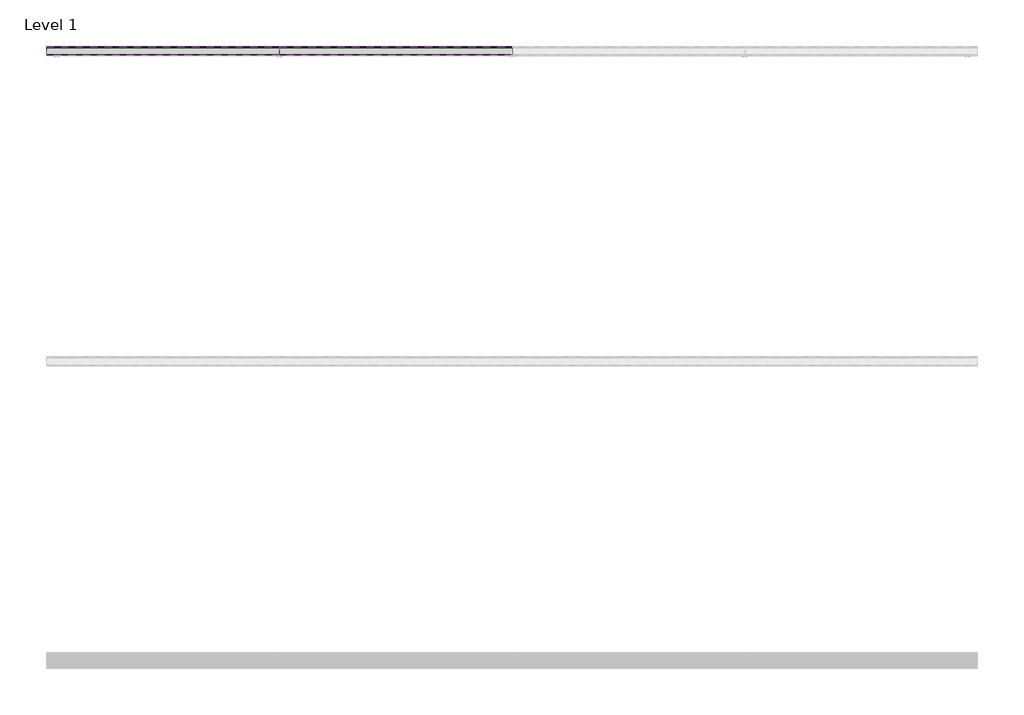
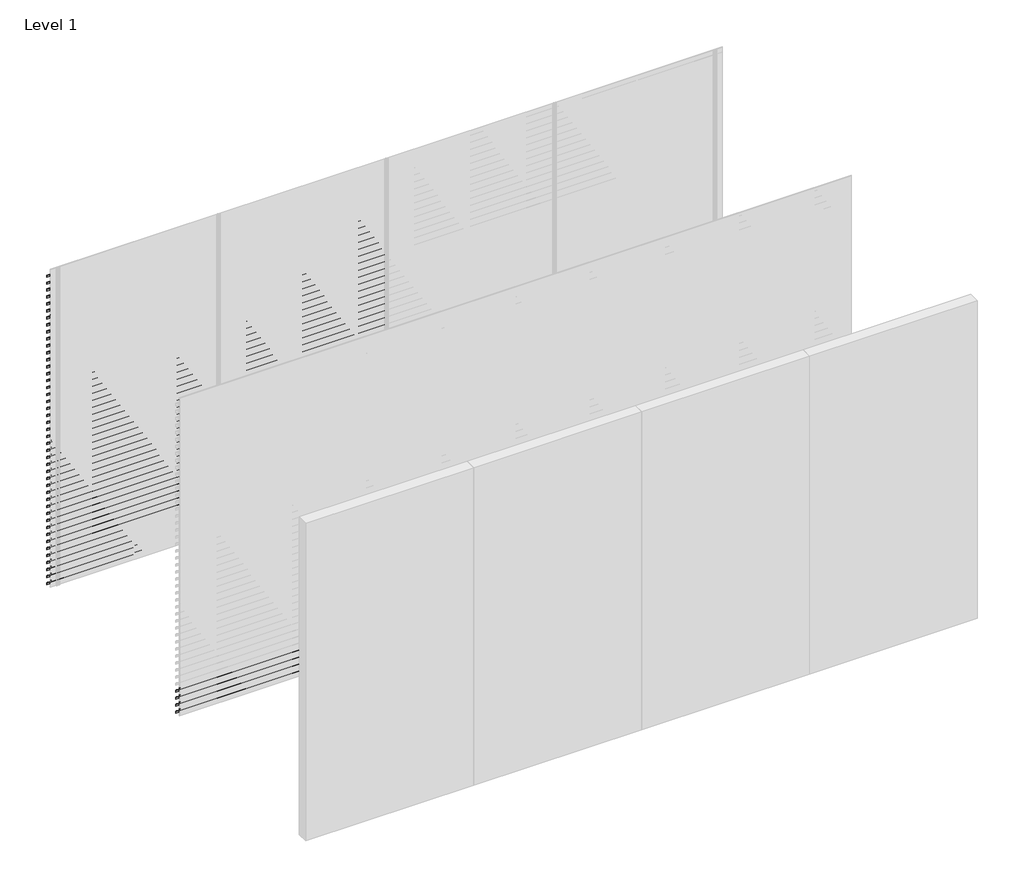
# One storey, part 24 of 25: 92 proxies.
"""IFC4 building model written with IfcOpenShell, lengths in millimetres."""

from ifc_helpers import new_model, si_unit, frame, origin, place, context, project, spatial, polyline, outline, extrude, element, save

model = new_model("IFC4")

# Units and contexts
model_context = context("Model", 3, world=origin())
ifc_project = project(units=[si_unit("LENGTHUNIT", "METRE", prefix="MILLI")], contexts=[model_context])

# Site, building, storey
site = spatial("IfcSite", under=ifc_project)
building = spatial("IfcBuilding", under=site)
storey = spatial("IfcBuildingStorey", under=building, Name="Level 1", Elevation=0.0)

# Proxies
placement = place(None, origin())
element("IfcBuildingElementProxy", 1, Name="Wall Sweeps", at=placement, inside=storey, context=model_context, shape_type="SweptSolid", body=[
    extrude(outline(polyline([(57.0, 2913.5), (57.0, 2893.5), (55.75, 2894.2216933), (55.75, 2912.7872415), (2.0, 2950.3158044), (2.0, 2970.0), (3.25, 2970.0), (3.25, 2951.0285629), (57.0, 2913.5)])), frame((0.0, 0.0, 0.0), z_axis=(1.0, 0.0, 0.0), x_axis=(0.0, 1.0, 0.0)), (0.0, 0.0, 1.0), 1500.0),
])
element("IfcBuildingElementProxy", 2, Name="Wall Sweeps", at=placement, inside=storey, context=model_context, shape_type="SweptSolid", body=[
    extrude(outline(polyline([(57.0, 2847.5), (57.0, 2827.5), (55.75, 2828.2216933), (55.75, 2846.7872415), (2.0, 2884.3158044), (2.0, 2904.0), (3.25, 2904.0), (3.25, 2885.0285629), (57.0, 2847.5)])), frame((0.0, 0.0, 0.0), z_axis=(1.0, 0.0, 0.0), x_axis=(0.0, 1.0, 0.0)), (0.0, 0.0, 1.0), 1500.0),
])
element("IfcBuildingElementProxy", 3, Name="Wall Sweeps", at=placement, inside=storey, context=model_context, shape_type="SweptSolid", body=[
    extrude(outline(polyline([(57.0, 2781.5), (57.0, 2761.5), (55.75, 2762.2216933), (55.75, 2780.7872415), (2.0, 2818.3158044), (2.0, 2838.0), (3.25, 2838.0), (3.25, 2819.0285629), (57.0, 2781.5)])), frame((0.0, 0.0, 0.0), z_axis=(1.0, 0.0, 0.0), x_axis=(0.0, 1.0, 0.0)), (0.0, 0.0, 1.0), 1500.0),
])
element("IfcBuildingElementProxy", 4, Name="Wall Sweeps", at=placement, inside=storey, context=model_context, shape_type="SweptSolid", body=[
    extrude(outline(polyline([(57.0, 2715.5), (57.0, 2695.5), (55.75, 2696.2216933), (55.75, 2714.7872415), (2.0, 2752.3158044), (2.0, 2772.0), (3.25, 2772.0), (3.25, 2753.0285629), (57.0, 2715.5)])), frame((0.0, 0.0, 0.0), z_axis=(1.0, 0.0, 0.0), x_axis=(0.0, 1.0, 0.0)), (0.0, 0.0, 1.0), 1500.0),
])
element("IfcBuildingElementProxy", 5, Name="Wall Sweeps", at=placement, inside=storey, context=model_context, shape_type="SweptSolid", body=[
    extrude(outline(polyline([(57.0, 2649.5), (57.0, 2629.5), (55.75, 2630.2216933), (55.75, 2648.7872415), (2.0, 2686.3158044), (2.0, 2706.0), (3.25, 2706.0), (3.25, 2687.0285629), (57.0, 2649.5)])), frame((0.0, 0.0, 0.0), z_axis=(1.0, 0.0, 0.0), x_axis=(0.0, 1.0, 0.0)), (0.0, 0.0, 1.0), 1500.0),
])
element("IfcBuildingElementProxy", 6, Name="Wall Sweeps", at=placement, inside=storey, context=model_context, shape_type="SweptSolid", body=[
    extrude(outline(polyline([(57.0, 2583.5), (57.0, 2563.5), (55.75, 2564.2216933), (55.75, 2582.7872415), (2.0, 2620.3158044), (2.0, 2640.0), (3.25, 2640.0), (3.25, 2621.0285629), (57.0, 2583.5)])), frame((0.0, 0.0, 0.0), z_axis=(1.0, 0.0, 0.0), x_axis=(0.0, 1.0, 0.0)), (0.0, 0.0, 1.0), 1500.0),
])
element("IfcBuildingElementProxy", 7, Name="Wall Sweeps", at=placement, inside=storey, context=model_context, shape_type="SweptSolid", body=[
    extrude(outline(polyline([(57.0, 2517.5), (57.0, 2497.5), (55.75, 2498.2216933), (55.75, 2516.7872415), (2.0, 2554.3158044), (2.0, 2574.0), (3.25, 2574.0), (3.25, 2555.0285629), (57.0, 2517.5)])), frame((0.0, 0.0, 0.0), z_axis=(1.0, 0.0, 0.0), x_axis=(0.0, 1.0, 0.0)), (0.0, 0.0, 1.0), 1500.0),
])
element("IfcBuildingElementProxy", 8, Name="Wall Sweeps", at=placement, inside=storey, context=model_context, shape_type="SweptSolid", body=[
    extrude(outline(polyline([(57.0, 2451.5), (57.0, 2431.5), (55.75, 2432.2216933), (55.75, 2450.7872415), (2.0, 2488.3158044), (2.0, 2508.0), (3.25, 2508.0), (3.25, 2489.0285629), (57.0, 2451.5)])), frame((0.0, 0.0, 0.0), z_axis=(1.0, 0.0, 0.0), x_axis=(0.0, 1.0, 0.0)), (0.0, 0.0, 1.0), 1500.0),
])
element("IfcBuildingElementProxy", 9, Name="Wall Sweeps", at=placement, inside=storey, context=model_context, shape_type="SweptSolid", body=[
    extrude(outline(polyline([(57.0, 2385.5), (57.0, 2365.5), (55.75, 2366.2216933), (55.75, 2384.7872415), (2.0, 2422.3158044), (2.0, 2442.0), (3.25, 2442.0), (3.25, 2423.0285629), (57.0, 2385.5)])), frame((0.0, 0.0, 0.0), z_axis=(1.0, 0.0, 0.0), x_axis=(0.0, 1.0, 0.0)), (0.0, 0.0, 1.0), 1500.0),
])
element("IfcBuildingElementProxy", 10, Name="Wall Sweeps", at=placement, inside=storey, context=model_context, shape_type="SweptSolid", body=[
    extrude(outline(polyline([(57.0, 2319.5), (57.0, 2299.5), (55.75, 2300.2216933), (55.75, 2318.7872415), (2.0, 2356.3158044), (2.0, 2376.0), (3.25, 2376.0), (3.25, 2357.0285629), (57.0, 2319.5)])), frame((0.0, 0.0, 0.0), z_axis=(1.0, 0.0, 0.0), x_axis=(0.0, 1.0, 0.0)), (0.0, 0.0, 1.0), 1500.0),
])
element("IfcBuildingElementProxy", 11, Name="Wall Sweeps", at=placement, inside=storey, context=model_context, shape_type="SweptSolid", body=[
    extrude(outline(polyline([(57.0, 2253.5), (57.0, 2233.5), (55.75, 2234.2216933), (55.75, 2252.7872415), (2.0, 2290.3158044), (2.0, 2310.0), (3.25, 2310.0), (3.25, 2291.0285629), (57.0, 2253.5)])), frame((0.0, 0.0, 0.0), z_axis=(1.0, 0.0, 0.0), x_axis=(0.0, 1.0, 0.0)), (0.0, 0.0, 1.0), 1500.0),
])
element("IfcBuildingElementProxy", 12, Name="Wall Sweeps", at=placement, inside=storey, context=model_context, shape_type="SweptSolid", body=[
    extrude(outline(polyline([(57.0, 2187.5), (57.0, 2167.5), (55.75, 2168.2216933), (55.75, 2186.7872415), (2.0, 2224.3158044), (2.0, 2244.0), (3.25, 2244.0), (3.25, 2225.0285629), (57.0, 2187.5)])), frame((0.0, 0.0, 0.0), z_axis=(1.0, 0.0, 0.0), x_axis=(0.0, 1.0, 0.0)), (0.0, 0.0, 1.0), 1500.0),
])
element("IfcBuildingElementProxy", 13, Name="Wall Sweeps", at=placement, inside=storey, context=model_context, shape_type="SweptSolid", body=[
    extrude(outline(polyline([(57.0, 2121.5), (57.0, 2101.5), (55.75, 2102.2216933), (55.75, 2120.7872415), (2.0, 2158.3158044), (2.0, 2178.0), (3.25, 2178.0), (3.25, 2159.0285629), (57.0, 2121.5)])), frame((0.0, 0.0, 0.0), z_axis=(1.0, 0.0, 0.0), x_axis=(0.0, 1.0, 0.0)), (0.0, 0.0, 1.0), 1500.0),
])
element("IfcBuildingElementProxy", 14, Name="Wall Sweeps", at=placement, inside=storey, context=model_context, shape_type="SweptSolid", body=[
    extrude(outline(polyline([(57.0, 2055.5), (57.0, 2035.5), (55.75, 2036.2216933), (55.75, 2054.7872415), (2.0, 2092.3158044), (2.0, 2112.0), (3.25, 2112.0), (3.25, 2093.0285629), (57.0, 2055.5)])), frame((0.0, 0.0, 0.0), z_axis=(1.0, 0.0, 0.0), x_axis=(0.0, 1.0, 0.0)), (0.0, 0.0, 1.0), 1500.0),
])
element("IfcBuildingElementProxy", 15, Name="Wall Sweeps", at=placement, inside=storey, context=model_context, shape_type="SweptSolid", body=[
    extrude(outline(polyline([(57.0, 1989.5), (57.0, 1969.5), (55.75, 1970.2216933), (55.75, 1988.7872415), (2.0, 2026.3158044), (2.0, 2046.0), (3.25, 2046.0), (3.25, 2027.0285629), (57.0, 1989.5)])), frame((0.0, 0.0, 0.0), z_axis=(1.0, 0.0, 0.0), x_axis=(0.0, 1.0, 0.0)), (0.0, 0.0, 1.0), 1500.0),
])
element("IfcBuildingElementProxy", 16, Name="Wall Sweeps", at=placement, inside=storey, context=model_context, shape_type="SweptSolid", body=[
    extrude(outline(polyline([(57.0, 1923.5), (57.0, 1903.5), (55.75, 1904.2216933), (55.75, 1922.7872415), (2.0, 1960.3158044), (2.0, 1980.0), (3.25, 1980.0), (3.25, 1961.0285629), (57.0, 1923.5)])), frame((0.0, 0.0, 0.0), z_axis=(1.0, 0.0, 0.0), x_axis=(0.0, 1.0, 0.0)), (0.0, 0.0, 1.0), 1500.0),
])
element("IfcBuildingElementProxy", 17, Name="Wall Sweeps", at=placement, inside=storey, context=model_context, shape_type="SweptSolid", body=[
    extrude(outline(polyline([(57.0, 1857.5), (57.0, 1837.5), (55.75, 1838.2216933), (55.75, 1856.7872415), (2.0, 1894.3158044), (2.0, 1914.0), (3.25, 1914.0), (3.25, 1895.0285629), (57.0, 1857.5)])), frame((0.0, 0.0, 0.0), z_axis=(1.0, 0.0, 0.0), x_axis=(0.0, 1.0, 0.0)), (0.0, 0.0, 1.0), 1500.0),
])
element("IfcBuildingElementProxy", 18, Name="Wall Sweeps", at=placement, inside=storey, context=model_context, shape_type="SweptSolid", body=[
    extrude(outline(polyline([(57.0, 1791.5), (57.0, 1771.5), (55.75, 1772.2216933), (55.75, 1790.7872415), (2.0, 1828.3158044), (2.0, 1848.0), (3.25, 1848.0), (3.25, 1829.0285629), (57.0, 1791.5)])), frame((0.0, 0.0, 0.0), z_axis=(1.0, 0.0, 0.0), x_axis=(0.0, 1.0, 0.0)), (0.0, 0.0, 1.0), 1500.0),
])
element("IfcBuildingElementProxy", 19, Name="Wall Sweeps", at=placement, inside=storey, context=model_context, shape_type="SweptSolid", body=[
    extrude(outline(polyline([(57.0, 1725.5), (57.0, 1705.5), (55.75, 1706.2216933), (55.75, 1724.7872415), (2.0, 1762.3158044), (2.0, 1782.0), (3.25, 1782.0), (3.25, 1763.0285629), (57.0, 1725.5)])), frame((0.0, 0.0, 0.0), z_axis=(1.0, 0.0, 0.0), x_axis=(0.0, 1.0, 0.0)), (0.0, 0.0, 1.0), 1500.0),
])
element("IfcBuildingElementProxy", 20, Name="Wall Sweeps", at=placement, inside=storey, context=model_context, shape_type="SweptSolid", body=[
    extrude(outline(polyline([(57.0, 1659.5), (57.0, 1639.5), (55.75, 1640.2216933), (55.75, 1658.7872415), (2.0, 1696.3158044), (2.0, 1716.0), (3.25, 1716.0), (3.25, 1697.0285629), (57.0, 1659.5)])), frame((0.0, 0.0, 0.0), z_axis=(1.0, 0.0, 0.0), x_axis=(0.0, 1.0, 0.0)), (0.0, 0.0, 1.0), 1500.0),
])
element("IfcBuildingElementProxy", 21, Name="Wall Sweeps", at=placement, inside=storey, context=model_context, shape_type="SweptSolid", body=[
    extrude(outline(polyline([(57.0, 1593.5), (57.0, 1573.5), (55.75, 1574.2216933), (55.75, 1592.7872415), (2.0, 1630.3158044), (2.0, 1650.0), (3.25, 1650.0), (3.25, 1631.0285629), (57.0, 1593.5)])), frame((0.0, 0.0, 0.0), z_axis=(1.0, 0.0, 0.0), x_axis=(0.0, 1.0, 0.0)), (0.0, 0.0, 1.0), 1500.0),
])
element("IfcBuildingElementProxy", 22, Name="Wall Sweeps", at=placement, inside=storey, context=model_context, shape_type="SweptSolid", body=[
    extrude(outline(polyline([(57.0, 1527.5), (57.0, 1507.5), (55.75, 1508.2216933), (55.75, 1526.7872415), (2.0, 1564.3158044), (2.0, 1584.0), (3.25, 1584.0), (3.25, 1565.0285629), (57.0, 1527.5)])), frame((0.0, 0.0, 0.0), z_axis=(1.0, 0.0, 0.0), x_axis=(0.0, 1.0, 0.0)), (0.0, 0.0, 1.0), 1500.0),
])
element("IfcBuildingElementProxy", 23, Name="Wall Sweeps", at=placement, inside=storey, context=model_context, shape_type="SweptSolid", body=[
    extrude(outline(polyline([(57.0, 1461.5), (57.0, 1441.5), (55.75, 1442.2216933), (55.75, 1460.7872415), (2.0, 1498.3158044), (2.0, 1518.0), (3.25, 1518.0), (3.25, 1499.0285629), (57.0, 1461.5)])), frame((0.0, 0.0, 0.0), z_axis=(1.0, 0.0, 0.0), x_axis=(0.0, 1.0, 0.0)), (0.0, 0.0, 1.0), 1500.0),
])
element("IfcBuildingElementProxy", 24, Name="Wall Sweeps", at=placement, inside=storey, context=model_context, shape_type="SweptSolid", body=[
    extrude(outline(polyline([(57.0, 1395.5), (57.0, 1375.5), (55.75, 1376.2216933), (55.75, 1394.7872415), (2.0, 1432.3158044), (2.0, 1452.0), (3.25, 1452.0), (3.25, 1433.0285629), (57.0, 1395.5)])), frame((0.0, 0.0, 0.0), z_axis=(1.0, 0.0, 0.0), x_axis=(0.0, 1.0, 0.0)), (0.0, 0.0, 1.0), 1500.0),
])
element("IfcBuildingElementProxy", 25, Name="Wall Sweeps", at=placement, inside=storey, context=model_context, shape_type="SweptSolid", body=[
    extrude(outline(polyline([(57.0, 1329.5), (57.0, 1309.5), (55.75, 1310.2216933), (55.75, 1328.7872415), (2.0, 1366.3158044), (2.0, 1386.0), (3.25, 1386.0), (3.25, 1367.0285629), (57.0, 1329.5)])), frame((0.0, 0.0, 0.0), z_axis=(1.0, 0.0, 0.0), x_axis=(0.0, 1.0, 0.0)), (0.0, 0.0, 1.0), 1500.0),
])
element("IfcBuildingElementProxy", 26, Name="Wall Sweeps", at=placement, inside=storey, context=model_context, shape_type="SweptSolid", body=[
    extrude(outline(polyline([(57.0, 1263.5), (57.0, 1243.5), (55.75, 1244.2216933), (55.75, 1262.7872415), (2.0, 1300.3158044), (2.0, 1320.0), (3.25, 1320.0), (3.25, 1301.0285629), (57.0, 1263.5)])), frame((0.0, 0.0, 0.0), z_axis=(1.0, 0.0, 0.0), x_axis=(0.0, 1.0, 0.0)), (0.0, 0.0, 1.0), 1500.0),
])
element("IfcBuildingElementProxy", 27, Name="Wall Sweeps", at=placement, inside=storey, context=model_context, shape_type="SweptSolid", body=[
    extrude(outline(polyline([(57.0, 1197.5), (57.0, 1177.5), (55.75, 1178.2216933), (55.75, 1196.7872415), (2.0, 1234.3158044), (2.0, 1254.0), (3.25, 1254.0), (3.25, 1235.0285629), (57.0, 1197.5)])), frame((0.0, 0.0, 0.0), z_axis=(1.0, 0.0, 0.0), x_axis=(0.0, 1.0, 0.0)), (0.0, 0.0, 1.0), 1500.0),
])
element("IfcBuildingElementProxy", 28, Name="Wall Sweeps", at=placement, inside=storey, context=model_context, shape_type="SweptSolid", body=[
    extrude(outline(polyline([(57.0, 1131.5), (57.0, 1111.5), (55.75, 1112.2216933), (55.75, 1130.7872415), (2.0, 1168.3158044), (2.0, 1188.0), (3.25, 1188.0), (3.25, 1169.0285629), (57.0, 1131.5)])), frame((0.0, 0.0, 0.0), z_axis=(1.0, 0.0, 0.0), x_axis=(0.0, 1.0, 0.0)), (0.0, 0.0, 1.0), 1500.0),
])
element("IfcBuildingElementProxy", 29, Name="Wall Sweeps", at=placement, inside=storey, context=model_context, shape_type="SweptSolid", body=[
    extrude(outline(polyline([(57.0, 1065.5), (57.0, 1045.5), (55.75, 1046.2216933), (55.75, 1064.7872415), (2.0, 1102.3158044), (2.0, 1122.0), (3.25, 1122.0), (3.25, 1103.0285629), (57.0, 1065.5)])), frame((0.0, 0.0, 0.0), z_axis=(1.0, 0.0, 0.0), x_axis=(0.0, 1.0, 0.0)), (0.0, 0.0, 1.0), 1500.0),
])
element("IfcBuildingElementProxy", 30, Name="Wall Sweeps", at=placement, inside=storey, context=model_context, shape_type="SweptSolid", body=[
    extrude(outline(polyline([(57.0, 999.5), (57.0, 979.5), (55.75, 980.2216933), (55.75, 998.7872415), (2.0, 1036.3158044), (2.0, 1056.0), (3.25, 1056.0), (3.25, 1037.0285629), (57.0, 999.5)])), frame((0.0, 0.0, 0.0), z_axis=(1.0, 0.0, 0.0), x_axis=(0.0, 1.0, 0.0)), (0.0, 0.0, 1.0), 1500.0),
])
element("IfcBuildingElementProxy", 31, Name="Wall Sweeps", at=placement, inside=storey, context=model_context, shape_type="SweptSolid", body=[
    extrude(outline(polyline([(57.0, 933.5), (57.0, 913.5), (55.75, 914.2216933), (55.75, 932.7872415), (2.0, 970.3158044), (2.0, 990.0), (3.25, 990.0), (3.25, 971.0285629), (57.0, 933.5)])), frame((0.0, 0.0, 0.0), z_axis=(1.0, 0.0, 0.0), x_axis=(0.0, 1.0, 0.0)), (0.0, 0.0, 1.0), 1500.0),
])
element("IfcBuildingElementProxy", 32, Name="Wall Sweeps", at=placement, inside=storey, context=model_context, shape_type="SweptSolid", body=[
    extrude(outline(polyline([(57.0, 867.5), (57.0, 847.5), (55.75, 848.2216933), (55.75, 866.7872415), (2.0, 904.3158044), (2.0, 924.0), (3.25, 924.0), (3.25, 905.0285629), (57.0, 867.5)])), frame((0.0, 0.0, 0.0), z_axis=(1.0, 0.0, 0.0), x_axis=(0.0, 1.0, 0.0)), (0.0, 0.0, 1.0), 1500.0),
])
element("IfcBuildingElementProxy", 33, Name="Wall Sweeps", at=placement, inside=storey, context=model_context, shape_type="SweptSolid", body=[
    extrude(outline(polyline([(57.0, 801.5), (57.0, 781.5), (55.75, 782.2216933), (55.75, 800.7872415), (2.0, 838.3158044), (2.0, 858.0), (3.25, 858.0), (3.25, 839.0285629), (57.0, 801.5)])), frame((0.0, 0.0, 0.0), z_axis=(1.0, 0.0, 0.0), x_axis=(0.0, 1.0, 0.0)), (0.0, 0.0, 1.0), 1500.0),
])
element("IfcBuildingElementProxy", 34, Name="Wall Sweeps", at=placement, inside=storey, context=model_context, shape_type="SweptSolid", body=[
    extrude(outline(polyline([(57.0, 735.5), (57.0, 715.5), (55.75, 716.2216933), (55.75, 734.7872415), (2.0, 772.3158044), (2.0, 792.0), (3.25, 792.0), (3.25, 773.0285629), (57.0, 735.5)])), frame((0.0, 0.0, 0.0), z_axis=(1.0, 0.0, 0.0), x_axis=(0.0, 1.0, 0.0)), (0.0, 0.0, 1.0), 1500.0),
])
element("IfcBuildingElementProxy", 35, Name="Wall Sweeps", at=placement, inside=storey, context=model_context, shape_type="SweptSolid", body=[
    extrude(outline(polyline([(57.0, 669.5), (57.0, 649.5), (55.75, 650.2216933), (55.75, 668.7872415), (2.0, 706.3158044), (2.0, 726.0), (3.25, 726.0), (3.25, 707.0285629), (57.0, 669.5)])), frame((0.0, 0.0, 0.0), z_axis=(1.0, 0.0, 0.0), x_axis=(0.0, 1.0, 0.0)), (0.0, 0.0, 1.0), 1500.0),
])
element("IfcBuildingElementProxy", 36, Name="Wall Sweeps", at=placement, inside=storey, context=model_context, shape_type="SweptSolid", body=[
    extrude(outline(polyline([(57.0, 603.5), (57.0, 583.5), (55.75, 584.2216933), (55.75, 602.7872415), (2.0, 640.3158044), (2.0, 660.0), (3.25, 660.0), (3.25, 641.0285629), (57.0, 603.5)])), frame((0.0, 0.0, 0.0), z_axis=(1.0, 0.0, 0.0), x_axis=(0.0, 1.0, 0.0)), (0.0, 0.0, 1.0), 1500.0),
])
element("IfcBuildingElementProxy", 37, Name="Wall Sweeps", at=placement, inside=storey, context=model_context, shape_type="SweptSolid", body=[
    extrude(outline(polyline([(57.0, 537.5), (57.0, 517.5), (55.75, 518.2216933), (55.75, 536.7872415), (2.0, 574.3158044), (2.0, 594.0), (3.25, 594.0), (3.25, 575.0285629), (57.0, 537.5)])), frame((0.0, 0.0, 0.0), z_axis=(1.0, 0.0, 0.0), x_axis=(0.0, 1.0, 0.0)), (0.0, 0.0, 1.0), 1500.0),
])
element("IfcBuildingElementProxy", 38, Name="Wall Sweeps", at=placement, inside=storey, context=model_context, shape_type="SweptSolid", body=[
    extrude(outline(polyline([(57.0, 471.5), (57.0, 451.5), (55.75, 452.2216933), (55.75, 470.7872415), (2.0, 508.3158044), (2.0, 528.0), (3.25, 528.0), (3.25, 509.0285629), (57.0, 471.5)])), frame((0.0, 0.0, 0.0), z_axis=(1.0, 0.0, 0.0), x_axis=(0.0, 1.0, 0.0)), (0.0, 0.0, 1.0), 1500.0),
])
element("IfcBuildingElementProxy", 39, Name="Wall Sweeps", at=placement, inside=storey, context=model_context, shape_type="SweptSolid", body=[
    extrude(outline(polyline([(57.0, 405.5), (57.0, 385.5), (55.75, 386.2216933), (55.75, 404.7872415), (2.0, 442.3158044), (2.0, 462.0), (3.25, 462.0), (3.25, 443.0285629), (57.0, 405.5)])), frame((0.0, 0.0, 0.0), z_axis=(1.0, 0.0, 0.0), x_axis=(0.0, 1.0, 0.0)), (0.0, 0.0, 1.0), 1500.0),
])
element("IfcBuildingElementProxy", 40, Name="Wall Sweeps", at=placement, inside=storey, context=model_context, shape_type="SweptSolid", body=[
    extrude(outline(polyline([(57.0, 339.5), (57.0, 319.5), (55.75, 320.2216933), (55.75, 338.7872415), (2.0, 376.3158044), (2.0, 396.0), (3.25, 396.0), (3.25, 377.0285629), (57.0, 339.5)])), frame((0.0, 0.0, 0.0), z_axis=(1.0, 0.0, 0.0), x_axis=(0.0, 1.0, 0.0)), (0.0, 0.0, 1.0), 1500.0),
])
element("IfcBuildingElementProxy", 41, Name="Wall Sweeps", at=placement, inside=storey, context=model_context, shape_type="SweptSolid", body=[
    extrude(outline(polyline([(57.0, 273.5), (57.0, 253.5), (55.75, 254.2216933), (55.75, 272.7872415), (2.0, 310.3158044), (2.0, 330.0), (3.25, 330.0), (3.25, 311.0285629), (57.0, 273.5)])), frame((0.0, 0.0, 0.0), z_axis=(1.0, 0.0, 0.0), x_axis=(0.0, 1.0, 0.0)), (0.0, 0.0, 1.0), 1500.0),
])
element("IfcBuildingElementProxy", 42, Name="Wall Sweeps", at=placement, inside=storey, context=model_context, shape_type="SweptSolid", body=[
    extrude(outline(polyline([(57.0, 207.5), (57.0, 187.5), (55.75, 188.2216933), (55.75, 206.7872415), (2.0, 244.3158044), (2.0, 264.0), (3.25, 264.0), (3.25, 245.0285629), (57.0, 207.5)])), frame((0.0, 0.0, 0.0), z_axis=(1.0, 0.0, 0.0), x_axis=(0.0, 1.0, 0.0)), (0.0, 0.0, 1.0), 1500.0),
])
element("IfcBuildingElementProxy", 43, Name="Wall Sweeps", at=placement, inside=storey, context=model_context, shape_type="SweptSolid", body=[
    extrude(outline(polyline([(57.0, 141.5), (57.0, 121.5), (55.75, 122.2216933), (55.75, 140.7872415), (2.0, 178.3158044), (2.0, 198.0), (3.25, 198.0), (3.25, 179.0285629), (57.0, 141.5)])), frame((0.0, 0.0, 0.0), z_axis=(1.0, 0.0, 0.0), x_axis=(0.0, 1.0, 0.0)), (0.0, 0.0, 1.0), 1500.0),
])
element("IfcBuildingElementProxy", 44, Name="Wall Sweeps", at=placement, inside=storey, context=model_context, shape_type="SweptSolid", body=[
    extrude(outline(polyline([(57.0, 75.5), (57.0, 55.5), (55.75, 56.2216933), (55.75, 74.7872415), (2.0, 112.3158044), (2.0, 132.0), (3.25, 132.0), (3.25, 113.0285629), (57.0, 75.5)])), frame((0.0, 0.0, 0.0), z_axis=(1.0, 0.0, 0.0), x_axis=(0.0, 1.0, 0.0)), (0.0, 0.0, 1.0), 1500.0),
])
element("IfcBuildingElementProxy", 45, Name="Wall Sweeps", at=placement, inside=storey, context=model_context, shape_type="SweptSolid", body=[
    extrude(outline(polyline([(57.0, 9.5), (57.0, -10.5), (55.75, -9.7783067), (55.75, 8.7872415), (2.0, 46.3158044), (2.0, 66.0), (3.25, 66.0), (3.25, 47.0285629), (57.0, 9.5)])), frame((0.0, 0.0, 0.0), z_axis=(1.0, 0.0, 0.0), x_axis=(0.0, 1.0, 0.0)), (0.0, 0.0, 1.0), 1500.0),
])
element("IfcBuildingElementProxy", 46, Name="Wall Sweeps", at=placement, inside=storey, context=model_context, shape_type="SweptSolid", body=[
    extrude(outline(polyline([(57.0, 2913.5), (57.0, 2893.5), (55.75, 2894.2216933), (55.75, 2912.7872415), (2.0, 2950.3158044), (2.0, 2970.0), (3.25, 2970.0), (3.25, 2951.0285629), (57.0, 2913.5)])), frame((1500.0, 0.0, 0.0), z_axis=(1.0, 0.0, 0.0), x_axis=(0.0, 1.0, 0.0)), (0.0, 0.0, 1.0), 1500.0),
])
element("IfcBuildingElementProxy", 47, Name="Wall Sweeps", at=placement, inside=storey, context=model_context, shape_type="SweptSolid", body=[
    extrude(outline(polyline([(57.0, 2847.5), (57.0, 2827.5), (55.75, 2828.2216933), (55.75, 2846.7872415), (2.0, 2884.3158044), (2.0, 2904.0), (3.25, 2904.0), (3.25, 2885.0285629), (57.0, 2847.5)])), frame((1500.0, 0.0, 0.0), z_axis=(1.0, 0.0, 0.0), x_axis=(0.0, 1.0, 0.0)), (0.0, 0.0, 1.0), 1500.0),
])
element("IfcBuildingElementProxy", 48, Name="Wall Sweeps", at=placement, inside=storey, context=model_context, shape_type="SweptSolid", body=[
    extrude(outline(polyline([(57.0, 2781.5), (57.0, 2761.5), (55.75, 2762.2216933), (55.75, 2780.7872415), (2.0, 2818.3158044), (2.0, 2838.0), (3.25, 2838.0), (3.25, 2819.0285629), (57.0, 2781.5)])), frame((1500.0, 0.0, 0.0), z_axis=(1.0, 0.0, 0.0), x_axis=(0.0, 1.0, 0.0)), (0.0, 0.0, 1.0), 1500.0),
])
element("IfcBuildingElementProxy", 49, Name="Wall Sweeps", at=placement, inside=storey, context=model_context, shape_type="SweptSolid", body=[
    extrude(outline(polyline([(57.0, 2715.5), (57.0, 2695.5), (55.75, 2696.2216933), (55.75, 2714.7872415), (2.0, 2752.3158044), (2.0, 2772.0), (3.25, 2772.0), (3.25, 2753.0285629), (57.0, 2715.5)])), frame((1500.0, 0.0, 0.0), z_axis=(1.0, 0.0, 0.0), x_axis=(0.0, 1.0, 0.0)), (0.0, 0.0, 1.0), 1500.0),
])
element("IfcBuildingElementProxy", 50, Name="Wall Sweeps", at=placement, inside=storey, context=model_context, shape_type="SweptSolid", body=[
    extrude(outline(polyline([(57.0, 2649.5), (57.0, 2629.5), (55.75, 2630.2216933), (55.75, 2648.7872415), (2.0, 2686.3158044), (2.0, 2706.0), (3.25, 2706.0), (3.25, 2687.0285629), (57.0, 2649.5)])), frame((1500.0, 0.0, 0.0), z_axis=(1.0, 0.0, 0.0), x_axis=(0.0, 1.0, 0.0)), (0.0, 0.0, 1.0), 1500.0),
])
element("IfcBuildingElementProxy", 51, Name="Wall Sweeps", at=placement, inside=storey, context=model_context, shape_type="SweptSolid", body=[
    extrude(outline(polyline([(57.0, 2583.5), (57.0, 2563.5), (55.75, 2564.2216933), (55.75, 2582.7872415), (2.0, 2620.3158044), (2.0, 2640.0), (3.25, 2640.0), (3.25, 2621.0285629), (57.0, 2583.5)])), frame((1500.0, 0.0, 0.0), z_axis=(1.0, 0.0, 0.0), x_axis=(0.0, 1.0, 0.0)), (0.0, 0.0, 1.0), 1500.0),
])
element("IfcBuildingElementProxy", 52, Name="Wall Sweeps", at=placement, inside=storey, context=model_context, shape_type="SweptSolid", body=[
    extrude(outline(polyline([(57.0, 2517.5), (57.0, 2497.5), (55.75, 2498.2216933), (55.75, 2516.7872415), (2.0, 2554.3158044), (2.0, 2574.0), (3.25, 2574.0), (3.25, 2555.0285629), (57.0, 2517.5)])), frame((1500.0, 0.0, 0.0), z_axis=(1.0, 0.0, 0.0), x_axis=(0.0, 1.0, 0.0)), (0.0, 0.0, 1.0), 1500.0),
])
element("IfcBuildingElementProxy", 53, Name="Wall Sweeps", at=placement, inside=storey, context=model_context, shape_type="SweptSolid", body=[
    extrude(outline(polyline([(57.0, 2451.5), (57.0, 2431.5), (55.75, 2432.2216933), (55.75, 2450.7872415), (2.0, 2488.3158044), (2.0, 2508.0), (3.25, 2508.0), (3.25, 2489.0285629), (57.0, 2451.5)])), frame((1500.0, 0.0, 0.0), z_axis=(1.0, 0.0, 0.0), x_axis=(0.0, 1.0, 0.0)), (0.0, 0.0, 1.0), 1500.0),
])
element("IfcBuildingElementProxy", 54, Name="Wall Sweeps", at=placement, inside=storey, context=model_context, shape_type="SweptSolid", body=[
    extrude(outline(polyline([(57.0, 2385.5), (57.0, 2365.5), (55.75, 2366.2216933), (55.75, 2384.7872415), (2.0, 2422.3158044), (2.0, 2442.0), (3.25, 2442.0), (3.25, 2423.0285629), (57.0, 2385.5)])), frame((1500.0, 0.0, 0.0), z_axis=(1.0, 0.0, 0.0), x_axis=(0.0, 1.0, 0.0)), (0.0, 0.0, 1.0), 1500.0),
])
element("IfcBuildingElementProxy", 55, Name="Wall Sweeps", at=placement, inside=storey, context=model_context, shape_type="SweptSolid", body=[
    extrude(outline(polyline([(57.0, 2319.5), (57.0, 2299.5), (55.75, 2300.2216933), (55.75, 2318.7872415), (2.0, 2356.3158044), (2.0, 2376.0), (3.25, 2376.0), (3.25, 2357.0285629), (57.0, 2319.5)])), frame((1500.0, 0.0, 0.0), z_axis=(1.0, 0.0, 0.0), x_axis=(0.0, 1.0, 0.0)), (0.0, 0.0, 1.0), 1500.0),
])
element("IfcBuildingElementProxy", 56, Name="Wall Sweeps", at=placement, inside=storey, context=model_context, shape_type="SweptSolid", body=[
    extrude(outline(polyline([(57.0, 2253.5), (57.0, 2233.5), (55.75, 2234.2216933), (55.75, 2252.7872415), (2.0, 2290.3158044), (2.0, 2310.0), (3.25, 2310.0), (3.25, 2291.0285629), (57.0, 2253.5)])), frame((1500.0, 0.0, 0.0), z_axis=(1.0, 0.0, 0.0), x_axis=(0.0, 1.0, 0.0)), (0.0, 0.0, 1.0), 1500.0),
])
element("IfcBuildingElementProxy", 57, Name="Wall Sweeps", at=placement, inside=storey, context=model_context, shape_type="SweptSolid", body=[
    extrude(outline(polyline([(57.0, 2187.5), (57.0, 2167.5), (55.75, 2168.2216933), (55.75, 2186.7872415), (2.0, 2224.3158044), (2.0, 2244.0), (3.25, 2244.0), (3.25, 2225.0285629), (57.0, 2187.5)])), frame((1500.0, 0.0, 0.0), z_axis=(1.0, 0.0, 0.0), x_axis=(0.0, 1.0, 0.0)), (0.0, 0.0, 1.0), 1500.0),
])
element("IfcBuildingElementProxy", 58, Name="Wall Sweeps", at=placement, inside=storey, context=model_context, shape_type="SweptSolid", body=[
    extrude(outline(polyline([(57.0, 2121.5), (57.0, 2101.5), (55.75, 2102.2216933), (55.75, 2120.7872415), (2.0, 2158.3158044), (2.0, 2178.0), (3.25, 2178.0), (3.25, 2159.0285629), (57.0, 2121.5)])), frame((1500.0, 0.0, 0.0), z_axis=(1.0, 0.0, 0.0), x_axis=(0.0, 1.0, 0.0)), (0.0, 0.0, 1.0), 1500.0),
])
element("IfcBuildingElementProxy", 59, Name="Wall Sweeps", at=placement, inside=storey, context=model_context, shape_type="SweptSolid", body=[
    extrude(outline(polyline([(57.0, 2055.5), (57.0, 2035.5), (55.75, 2036.2216933), (55.75, 2054.7872415), (2.0, 2092.3158044), (2.0, 2112.0), (3.25, 2112.0), (3.25, 2093.0285629), (57.0, 2055.5)])), frame((1500.0, 0.0, 0.0), z_axis=(1.0, 0.0, 0.0), x_axis=(0.0, 1.0, 0.0)), (0.0, 0.0, 1.0), 1500.0),
])
element("IfcBuildingElementProxy", 60, Name="Wall Sweeps", at=placement, inside=storey, context=model_context, shape_type="SweptSolid", body=[
    extrude(outline(polyline([(57.0, 1989.5), (57.0, 1969.5), (55.75, 1970.2216933), (55.75, 1988.7872415), (2.0, 2026.3158044), (2.0, 2046.0), (3.25, 2046.0), (3.25, 2027.0285629), (57.0, 1989.5)])), frame((1500.0, 0.0, 0.0), z_axis=(1.0, 0.0, 0.0), x_axis=(0.0, 1.0, 0.0)), (0.0, 0.0, 1.0), 1500.0),
])
element("IfcBuildingElementProxy", 61, Name="Wall Sweeps", at=placement, inside=storey, context=model_context, shape_type="SweptSolid", body=[
    extrude(outline(polyline([(57.0, 1923.5), (57.0, 1903.5), (55.75, 1904.2216933), (55.75, 1922.7872415), (2.0, 1960.3158044), (2.0, 1980.0), (3.25, 1980.0), (3.25, 1961.0285629), (57.0, 1923.5)])), frame((1500.0, 0.0, 0.0), z_axis=(1.0, 0.0, 0.0), x_axis=(0.0, 1.0, 0.0)), (0.0, 0.0, 1.0), 1500.0),
])
element("IfcBuildingElementProxy", 62, Name="Wall Sweeps", at=placement, inside=storey, context=model_context, shape_type="SweptSolid", body=[
    extrude(outline(polyline([(57.0, 1857.5), (57.0, 1837.5), (55.75, 1838.2216933), (55.75, 1856.7872415), (2.0, 1894.3158044), (2.0, 1914.0), (3.25, 1914.0), (3.25, 1895.0285629), (57.0, 1857.5)])), frame((1500.0, 0.0, 0.0), z_axis=(1.0, 0.0, 0.0), x_axis=(0.0, 1.0, 0.0)), (0.0, 0.0, 1.0), 1500.0),
])
element("IfcBuildingElementProxy", 63, Name="Wall Sweeps", at=placement, inside=storey, context=model_context, shape_type="SweptSolid", body=[
    extrude(outline(polyline([(57.0, 1791.5), (57.0, 1771.5), (55.75, 1772.2216933), (55.75, 1790.7872415), (2.0, 1828.3158044), (2.0, 1848.0), (3.25, 1848.0), (3.25, 1829.0285629), (57.0, 1791.5)])), frame((1500.0, 0.0, 0.0), z_axis=(1.0, 0.0, 0.0), x_axis=(0.0, 1.0, 0.0)), (0.0, 0.0, 1.0), 1500.0),
])
element("IfcBuildingElementProxy", 64, Name="Wall Sweeps", at=placement, inside=storey, context=model_context, shape_type="SweptSolid", body=[
    extrude(outline(polyline([(57.0, 1725.5), (57.0, 1705.5), (55.75, 1706.2216933), (55.75, 1724.7872415), (2.0, 1762.3158044), (2.0, 1782.0), (3.25, 1782.0), (3.25, 1763.0285629), (57.0, 1725.5)])), frame((1500.0, 0.0, 0.0), z_axis=(1.0, 0.0, 0.0), x_axis=(0.0, 1.0, 0.0)), (0.0, 0.0, 1.0), 1500.0),
])
element("IfcBuildingElementProxy", 65, Name="Wall Sweeps", at=placement, inside=storey, context=model_context, shape_type="SweptSolid", body=[
    extrude(outline(polyline([(57.0, 1659.5), (57.0, 1639.5), (55.75, 1640.2216933), (55.75, 1658.7872415), (2.0, 1696.3158044), (2.0, 1716.0), (3.25, 1716.0), (3.25, 1697.0285629), (57.0, 1659.5)])), frame((1500.0, 0.0, 0.0), z_axis=(1.0, 0.0, 0.0), x_axis=(0.0, 1.0, 0.0)), (0.0, 0.0, 1.0), 1500.0),
])
element("IfcBuildingElementProxy", 66, Name="Wall Sweeps", at=placement, inside=storey, context=model_context, shape_type="SweptSolid", body=[
    extrude(outline(polyline([(57.0, 1593.5), (57.0, 1573.5), (55.75, 1574.2216933), (55.75, 1592.7872415), (2.0, 1630.3158044), (2.0, 1650.0), (3.25, 1650.0), (3.25, 1631.0285629), (57.0, 1593.5)])), frame((1500.0, 0.0, 0.0), z_axis=(1.0, 0.0, 0.0), x_axis=(0.0, 1.0, 0.0)), (0.0, 0.0, 1.0), 1500.0),
])
element("IfcBuildingElementProxy", 67, Name="Wall Sweeps", at=placement, inside=storey, context=model_context, shape_type="SweptSolid", body=[
    extrude(outline(polyline([(57.0, 1527.5), (57.0, 1507.5), (55.75, 1508.2216933), (55.75, 1526.7872415), (2.0, 1564.3158044), (2.0, 1584.0), (3.25, 1584.0), (3.25, 1565.0285629), (57.0, 1527.5)])), frame((1500.0, 0.0, 0.0), z_axis=(1.0, 0.0, 0.0), x_axis=(0.0, 1.0, 0.0)), (0.0, 0.0, 1.0), 1500.0),
])
element("IfcBuildingElementProxy", 68, Name="Wall Sweeps", at=placement, inside=storey, context=model_context, shape_type="SweptSolid", body=[
    extrude(outline(polyline([(57.0, 1461.5), (57.0, 1441.5), (55.75, 1442.2216933), (55.75, 1460.7872415), (2.0, 1498.3158044), (2.0, 1518.0), (3.25, 1518.0), (3.25, 1499.0285629), (57.0, 1461.5)])), frame((1500.0, 0.0, 0.0), z_axis=(1.0, 0.0, 0.0), x_axis=(0.0, 1.0, 0.0)), (0.0, 0.0, 1.0), 1500.0),
])
element("IfcBuildingElementProxy", 69, Name="Wall Sweeps", at=placement, inside=storey, context=model_context, shape_type="SweptSolid", body=[
    extrude(outline(polyline([(57.0, 1395.5), (57.0, 1375.5), (55.75, 1376.2216933), (55.75, 1394.7872415), (2.0, 1432.3158044), (2.0, 1452.0), (3.25, 1452.0), (3.25, 1433.0285629), (57.0, 1395.5)])), frame((1500.0, 0.0, 0.0), z_axis=(1.0, 0.0, 0.0), x_axis=(0.0, 1.0, 0.0)), (0.0, 0.0, 1.0), 1500.0),
])
element("IfcBuildingElementProxy", 70, Name="Wall Sweeps", at=placement, inside=storey, context=model_context, shape_type="SweptSolid", body=[
    extrude(outline(polyline([(57.0, 1329.5), (57.0, 1309.5), (55.75, 1310.2216933), (55.75, 1328.7872415), (2.0, 1366.3158044), (2.0, 1386.0), (3.25, 1386.0), (3.25, 1367.0285629), (57.0, 1329.5)])), frame((1500.0, 0.0, 0.0), z_axis=(1.0, 0.0, 0.0), x_axis=(0.0, 1.0, 0.0)), (0.0, 0.0, 1.0), 1500.0),
])
element("IfcBuildingElementProxy", 71, Name="Wall Sweeps", at=placement, inside=storey, context=model_context, shape_type="SweptSolid", body=[
    extrude(outline(polyline([(57.0, 1263.5), (57.0, 1243.5), (55.75, 1244.2216933), (55.75, 1262.7872415), (2.0, 1300.3158044), (2.0, 1320.0), (3.25, 1320.0), (3.25, 1301.0285629), (57.0, 1263.5)])), frame((1500.0, 0.0, 0.0), z_axis=(1.0, 0.0, 0.0), x_axis=(0.0, 1.0, 0.0)), (0.0, 0.0, 1.0), 1500.0),
])
element("IfcBuildingElementProxy", 72, Name="Wall Sweeps", at=placement, inside=storey, context=model_context, shape_type="SweptSolid", body=[
    extrude(outline(polyline([(57.0, 1197.5), (57.0, 1177.5), (55.75, 1178.2216933), (55.75, 1196.7872415), (2.0, 1234.3158044), (2.0, 1254.0), (3.25, 1254.0), (3.25, 1235.0285629), (57.0, 1197.5)])), frame((1500.0, 0.0, 0.0), z_axis=(1.0, 0.0, 0.0), x_axis=(0.0, 1.0, 0.0)), (0.0, 0.0, 1.0), 1500.0),
])
element("IfcBuildingElementProxy", 73, Name="Wall Sweeps", at=placement, inside=storey, context=model_context, shape_type="SweptSolid", body=[
    extrude(outline(polyline([(57.0, 1131.5), (57.0, 1111.5), (55.75, 1112.2216933), (55.75, 1130.7872415), (2.0, 1168.3158044), (2.0, 1188.0), (3.25, 1188.0), (3.25, 1169.0285629), (57.0, 1131.5)])), frame((1500.0, 0.0, 0.0), z_axis=(1.0, 0.0, 0.0), x_axis=(0.0, 1.0, 0.0)), (0.0, 0.0, 1.0), 1500.0),
])
element("IfcBuildingElementProxy", 74, Name="Wall Sweeps", at=placement, inside=storey, context=model_context, shape_type="SweptSolid", body=[
    extrude(outline(polyline([(57.0, 1065.5), (57.0, 1045.5), (55.75, 1046.2216933), (55.75, 1064.7872415), (2.0, 1102.3158044), (2.0, 1122.0), (3.25, 1122.0), (3.25, 1103.0285629), (57.0, 1065.5)])), frame((1500.0, 0.0, 0.0), z_axis=(1.0, 0.0, 0.0), x_axis=(0.0, 1.0, 0.0)), (0.0, 0.0, 1.0), 1500.0),
])
element("IfcBuildingElementProxy", 75, Name="Wall Sweeps", at=placement, inside=storey, context=model_context, shape_type="SweptSolid", body=[
    extrude(outline(polyline([(57.0, 999.5), (57.0, 979.5), (55.75, 980.2216933), (55.75, 998.7872415), (2.0, 1036.3158044), (2.0, 1056.0), (3.25, 1056.0), (3.25, 1037.0285629), (57.0, 999.5)])), frame((1500.0, 0.0, 0.0), z_axis=(1.0, 0.0, 0.0), x_axis=(0.0, 1.0, 0.0)), (0.0, 0.0, 1.0), 1500.0),
])
element("IfcBuildingElementProxy", 76, Name="Wall Sweeps", at=placement, inside=storey, context=model_context, shape_type="SweptSolid", body=[
    extrude(outline(polyline([(57.0, 933.5), (57.0, 913.5), (55.75, 914.2216933), (55.75, 932.7872415), (2.0, 970.3158044), (2.0, 990.0), (3.25, 990.0), (3.25, 971.0285629), (57.0, 933.5)])), frame((1500.0, 0.0, 0.0), z_axis=(1.0, 0.0, 0.0), x_axis=(0.0, 1.0, 0.0)), (0.0, 0.0, 1.0), 1500.0),
])
element("IfcBuildingElementProxy", 77, Name="Wall Sweeps", at=placement, inside=storey, context=model_context, shape_type="SweptSolid", body=[
    extrude(outline(polyline([(57.0, 867.5), (57.0, 847.5), (55.75, 848.2216933), (55.75, 866.7872415), (2.0, 904.3158044), (2.0, 924.0), (3.25, 924.0), (3.25, 905.0285629), (57.0, 867.5)])), frame((1500.0, 0.0, 0.0), z_axis=(1.0, 0.0, 0.0), x_axis=(0.0, 1.0, 0.0)), (0.0, 0.0, 1.0), 1500.0),
])
element("IfcBuildingElementProxy", 78, Name="Wall Sweeps", at=placement, inside=storey, context=model_context, shape_type="SweptSolid", body=[
    extrude(outline(polyline([(57.0, 801.5), (57.0, 781.5), (55.75, 782.2216933), (55.75, 800.7872415), (2.0, 838.3158044), (2.0, 858.0), (3.25, 858.0), (3.25, 839.0285629), (57.0, 801.5)])), frame((1500.0, 0.0, 0.0), z_axis=(1.0, 0.0, 0.0), x_axis=(0.0, 1.0, 0.0)), (0.0, 0.0, 1.0), 1500.0),
])
element("IfcBuildingElementProxy", 79, Name="Wall Sweeps", at=placement, inside=storey, context=model_context, shape_type="SweptSolid", body=[
    extrude(outline(polyline([(57.0, 735.5), (57.0, 715.5), (55.75, 716.2216933), (55.75, 734.7872415), (2.0, 772.3158044), (2.0, 792.0), (3.25, 792.0), (3.25, 773.0285629), (57.0, 735.5)])), frame((1500.0, 0.0, 0.0), z_axis=(1.0, 0.0, 0.0), x_axis=(0.0, 1.0, 0.0)), (0.0, 0.0, 1.0), 1500.0),
])
element("IfcBuildingElementProxy", 80, Name="Wall Sweeps", at=placement, inside=storey, context=model_context, shape_type="SweptSolid", body=[
    extrude(outline(polyline([(57.0, 669.5), (57.0, 649.5), (55.75, 650.2216933), (55.75, 668.7872415), (2.0, 706.3158044), (2.0, 726.0), (3.25, 726.0), (3.25, 707.0285629), (57.0, 669.5)])), frame((1500.0, 0.0, 0.0), z_axis=(1.0, 0.0, 0.0), x_axis=(0.0, 1.0, 0.0)), (0.0, 0.0, 1.0), 1500.0),
])
element("IfcBuildingElementProxy", 81, Name="Wall Sweeps", at=placement, inside=storey, context=model_context, shape_type="SweptSolid", body=[
    extrude(outline(polyline([(57.0, 603.5), (57.0, 583.5), (55.75, 584.2216933), (55.75, 602.7872415), (2.0, 640.3158044), (2.0, 660.0), (3.25, 660.0), (3.25, 641.0285629), (57.0, 603.5)])), frame((1500.0, 0.0, 0.0), z_axis=(1.0, 0.0, 0.0), x_axis=(0.0, 1.0, 0.0)), (0.0, 0.0, 1.0), 1500.0),
])
element("IfcBuildingElementProxy", 82, Name="Wall Sweeps", at=placement, inside=storey, context=model_context, shape_type="SweptSolid", body=[
    extrude(outline(polyline([(57.0, 537.5), (57.0, 517.5), (55.75, 518.2216933), (55.75, 536.7872415), (2.0, 574.3158044), (2.0, 594.0), (3.25, 594.0), (3.25, 575.0285629), (57.0, 537.5)])), frame((1500.0, 0.0, 0.0), z_axis=(1.0, 0.0, 0.0), x_axis=(0.0, 1.0, 0.0)), (0.0, 0.0, 1.0), 1500.0),
])
element("IfcBuildingElementProxy", 83, Name="Wall Sweeps", at=placement, inside=storey, context=model_context, shape_type="SweptSolid", body=[
    extrude(outline(polyline([(57.0, 471.5), (57.0, 451.5), (55.75, 452.2216933), (55.75, 470.7872415), (2.0, 508.3158044), (2.0, 528.0), (3.25, 528.0), (3.25, 509.0285629), (57.0, 471.5)])), frame((1500.0, 0.0, 0.0), z_axis=(1.0, 0.0, 0.0), x_axis=(0.0, 1.0, 0.0)), (0.0, 0.0, 1.0), 1500.0),
])
element("IfcBuildingElementProxy", 84, Name="Wall Sweeps", at=placement, inside=storey, context=model_context, shape_type="SweptSolid", body=[
    extrude(outline(polyline([(57.0, 405.5), (57.0, 385.5), (55.75, 386.2216933), (55.75, 404.7872415), (2.0, 442.3158044), (2.0, 462.0), (3.25, 462.0), (3.25, 443.0285629), (57.0, 405.5)])), frame((1500.0, 0.0, 0.0), z_axis=(1.0, 0.0, 0.0), x_axis=(0.0, 1.0, 0.0)), (0.0, 0.0, 1.0), 1500.0),
])
element("IfcBuildingElementProxy", 85, Name="Wall Sweeps", at=placement, inside=storey, context=model_context, shape_type="SweptSolid", body=[
    extrude(outline(polyline([(57.0, 339.5), (57.0, 319.5), (55.75, 320.2216933), (55.75, 338.7872415), (2.0, 376.3158044), (2.0, 396.0), (3.25, 396.0), (3.25, 377.0285629), (57.0, 339.5)])), frame((1500.0, 0.0, 0.0), z_axis=(1.0, 0.0, 0.0), x_axis=(0.0, 1.0, 0.0)), (0.0, 0.0, 1.0), 1500.0),
])
element("IfcBuildingElementProxy", 86, Name="Wall Sweeps", at=placement, inside=storey, context=model_context, shape_type="SweptSolid", body=[
    extrude(outline(polyline([(57.0, 273.5), (57.0, 253.5), (55.75, 254.2216933), (55.75, 272.7872415), (2.0, 310.3158044), (2.0, 330.0), (3.25, 330.0), (3.25, 311.0285629), (57.0, 273.5)])), frame((1500.0, 0.0, 0.0), z_axis=(1.0, 0.0, 0.0), x_axis=(0.0, 1.0, 0.0)), (0.0, 0.0, 1.0), 1500.0),
])
element("IfcBuildingElementProxy", 87, Name="Wall Sweeps", at=placement, inside=storey, context=model_context, shape_type="SweptSolid", body=[
    extrude(outline(polyline([(57.0, 207.5), (57.0, 187.5), (55.75, 188.2216933), (55.75, 206.7872415), (2.0, 244.3158044), (2.0, 264.0), (3.25, 264.0), (3.25, 245.0285629), (57.0, 207.5)])), frame((1500.0, 0.0, 0.0), z_axis=(1.0, 0.0, 0.0), x_axis=(0.0, 1.0, 0.0)), (0.0, 0.0, 1.0), 1500.0),
])
element("IfcBuildingElementProxy", 88, Name="Wall Sweeps", at=placement, inside=storey, context=model_context, shape_type="SweptSolid", body=[
    extrude(outline(polyline([(57.0, 141.5), (57.0, 121.5), (55.75, 122.2216933), (55.75, 140.7872415), (2.0, 178.3158044), (2.0, 198.0), (3.25, 198.0), (3.25, 179.0285629), (57.0, 141.5)])), frame((1500.0, 0.0, 0.0), z_axis=(1.0, 0.0, 0.0), x_axis=(0.0, 1.0, 0.0)), (0.0, 0.0, 1.0), 1500.0),
])
element("IfcBuildingElementProxy", 89, Name="Wall Sweeps", at=placement, inside=storey, context=model_context, shape_type="SweptSolid", body=[
    extrude(outline(polyline([(-1943.0, 207.5), (-1943.0, 187.5), (-1944.25, 188.2216933), (-1944.25, 206.7872415), (-1998.0, 244.3158044), (-1998.0, 264.0), (-1996.75, 264.0), (-1996.75, 245.0285629), (-1943.0, 207.5)])), frame((0.0, 0.0, 0.0), z_axis=(1.0, 0.0, 0.0), x_axis=(0.0, 1.0, 0.0)), (0.0, 0.0, 1.0), 6000.0),
])
element("IfcBuildingElementProxy", 90, Name="Wall Sweeps", at=placement, inside=storey, context=model_context, shape_type="SweptSolid", body=[
    extrude(outline(polyline([(-1943.0, 141.5), (-1943.0, 121.5), (-1944.25, 122.2216933), (-1944.25, 140.7872415), (-1998.0, 178.3158044), (-1998.0, 198.0), (-1996.75, 198.0), (-1996.75, 179.0285629), (-1943.0, 141.5)])), frame((0.0, 0.0, 0.0), z_axis=(1.0, 0.0, 0.0), x_axis=(0.0, 1.0, 0.0)), (0.0, 0.0, 1.0), 6000.0),
])
element("IfcBuildingElementProxy", 91, Name="Wall Sweeps", at=placement, inside=storey, context=model_context, shape_type="SweptSolid", body=[
    extrude(outline(polyline([(-1943.0, 75.5), (-1943.0, 55.5), (-1944.25, 56.2216933), (-1944.25, 74.7872415), (-1998.0, 112.3158044), (-1998.0, 132.0), (-1996.75, 132.0), (-1996.75, 113.0285629), (-1943.0, 75.5)])), frame((0.0, 0.0, 0.0), z_axis=(1.0, 0.0, 0.0), x_axis=(0.0, 1.0, 0.0)), (0.0, 0.0, 1.0), 6000.0),
])
element("IfcBuildingElementProxy", 92, Name="Wall Sweeps", at=placement, inside=storey, context=model_context, shape_type="SweptSolid", body=[
    extrude(outline(polyline([(-1943.0, 9.5), (-1943.0, -10.5), (-1944.25, -9.7783067), (-1944.25, 8.7872415), (-1998.0, 46.3158044), (-1998.0, 66.0), (-1996.75, 66.0), (-1996.75, 47.0285629), (-1943.0, 9.5)])), frame((0.0, 0.0, 0.0), z_axis=(1.0, 0.0, 0.0), x_axis=(0.0, 1.0, 0.0)), (0.0, 0.0, 1.0), 6000.0),
])

save(model, "model.ifc")
